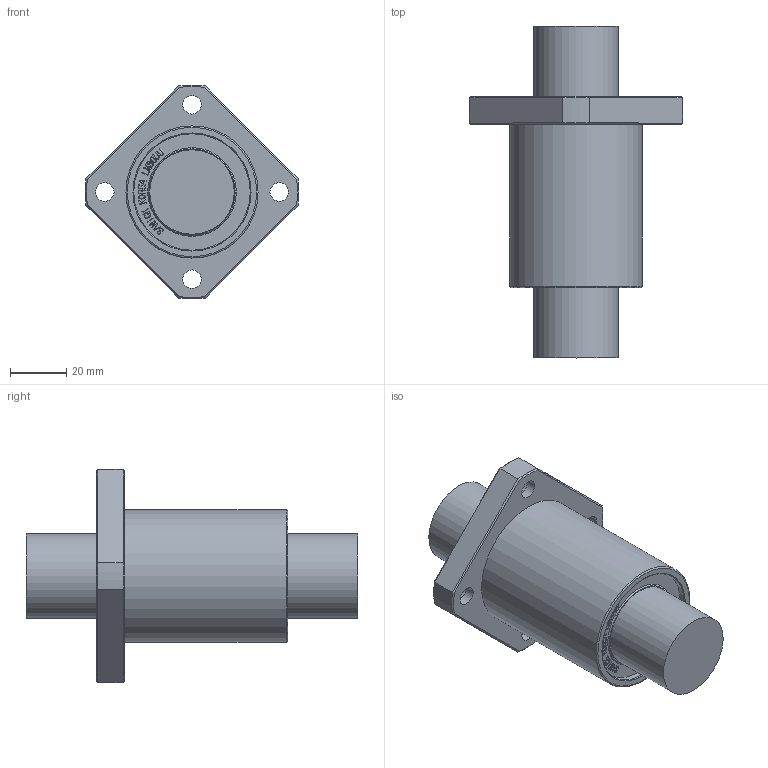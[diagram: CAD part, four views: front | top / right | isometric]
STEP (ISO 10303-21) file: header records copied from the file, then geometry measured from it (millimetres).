
FILE_DESCRIPTION(/* description */ (''),/* implementation_level */ '2;1');
FILE_NAME(/* name */ 'W:\(01) 2024년 홈페이지 CAD파일 최신화\LMEK\IPT\LMEK30UU.stp',/* time_stamp */ '2025-01-25T10:46:08+09:00',/* author */ ('서우현'),/* organization */ (''),/* preprocessor_version */ 'ST-DEVELOPER v17.2',/* originating_system */ 'Autodesk Inventor 2019',/* authorisation */ '');
FILE_SCHEMA (('AUTOMOTIVE_DESIGN { 1 0 10303 214 3 1 1 }'));
Length unit declared in the file: millimetre
Products named in the file (1): LM5
Bounding box: 75.93 x 118 x 75.93 mm (x, y, z)
Volume: 165235.4 mm3; surface area: 24402.9 mm2
Topology: 1 solids, 1 shells, 882 faces, 2480 edges, 1656 vertices
Faces by surface type: bspline 616, plane 234, cylinder 18, cone 12, torus 2
Full cylindrical faces by diameter (mm): 6.6 x4, 11 x4, 30 x2, 41.4 x2, 47 x2
Entity records: 30343 total; most frequent: CARTESIAN_POINT 11319, ORIENTED_EDGE 4960, EDGE_CURVE 2480, DIRECTION 1848, VERTEX_POINT 1656, B_SPLINE_CURVE_WITH_KNOTS 1232, LINE 1150, VECTOR 1150
